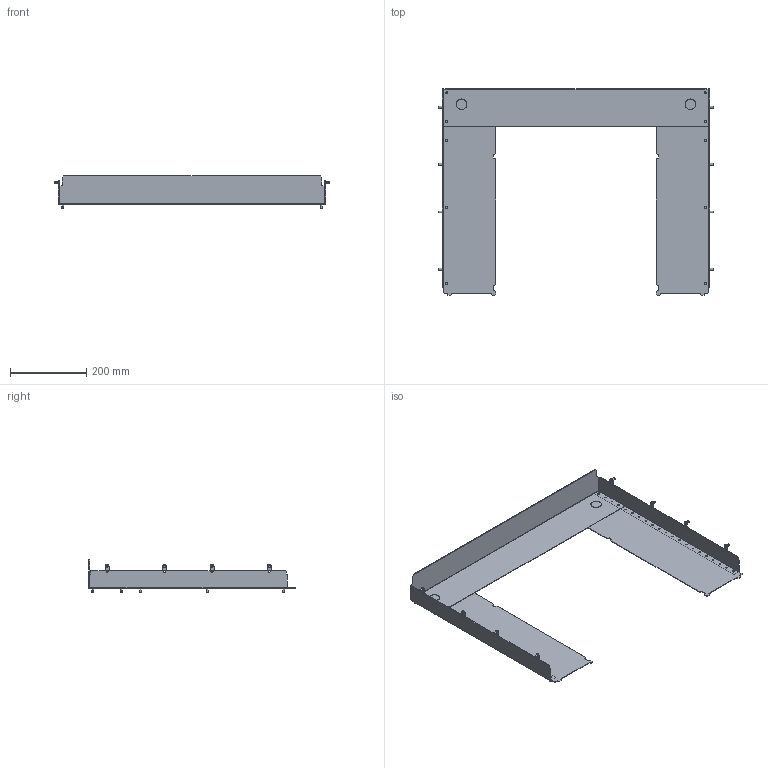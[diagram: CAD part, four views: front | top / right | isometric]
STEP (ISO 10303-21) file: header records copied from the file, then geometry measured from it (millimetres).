
FILE_DESCRIPTION(('CAx-IF Rec.Pracs.---Model Styling and Organization---1.2---2011-12-15','CAx-IF Rec.Pracs.---Geometric and Assembly Validation Properties---4.1---2014-06-16','CAx-IF Rec.Pracs.---PMI Polyline Presentation---2.0---2013-05-24'),'2;1');
FILE_NAME('R5FRC7V81525.stp','2021-07-29T02:06:18+03:00',(''),(''),'STEP Interface 4.4 by CT CoreTechnologie','3D_Evolution4.4 by CT CoreTechnologie','');
FILE_SCHEMA(('AUTOMOTIVE_DESIGN { 1 0 10303 214 1 1 1 1 }'));
Length unit declared in the file: millimetre
Products named in the file (1): R5FRC6V81525
Bounding box: 720 x 540 x 85 mm (x, y, z)
Surface area: 628536.8 mm2 (no closed solid volume)
Topology: 0 solids, 23 shells, 396 faces, 1038 edges, 688 vertices
Faces by surface type: cylinder 202, plane 194
Entity records: 12576 total; most frequent: DIRECTION 2236, CARTESIAN_POINT 2123, ORIENTED_EDGE 2076, EDGE_CURVE 1038, AXIS2_PLACEMENT_3D 801, VERTEX_POINT 688, VECTOR 634, LINE 634
